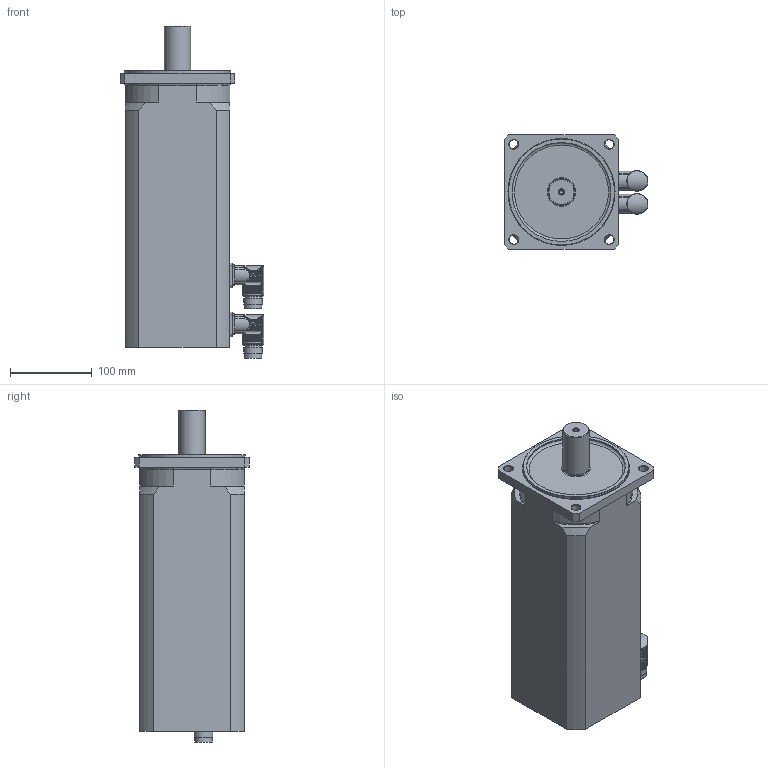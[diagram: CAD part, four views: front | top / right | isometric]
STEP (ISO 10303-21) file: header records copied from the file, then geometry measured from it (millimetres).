
FILE_DESCRIPTION(/* description */ (''),/* implementation_level */ '2;1');
FILE_NAME(/* name */ 'KSY 5616 D-MD-R4',/* time_stamp */ '2007-07-13T09:50:00+01:00',/* author */ (''),/* organization */ ('ESR Pollmeier GmbH'),/* preprocessor_version */ 'ST-DEVELOPER v8',/* originating_system */ 'UNIGRAPHICS SOLUTIONS - UNIGRAPHICS 18.0',/* authorisation */ '');
FILE_SCHEMA (('AUTOMOTIVE_DESIGN { 1 2 10303 214 0 1 1 1 }'));
Length unit declared in the file: millimetre
Products named in the file (3): Winkelflanschdose_0; Rotor_SY5_0; MR7458-Ux-Nxxx-G01-A0D-MS_0
Assembly tree (3 placements, depth 2):
  MR7458-Ux-Nxxx-G01-A0D-MS_0
    Rotor_SY5_0
    Winkelflanschdose_0  x2
Bounding box: 175.49 x 140 x 406.15 mm (x, y, z)
Volume: 5452307.6 mm3; surface area: 229311.6 mm2
Topology: 4 solids, 4 shells, 419 faces, 1162 edges, 769 vertices
Faces by surface type: cylinder 319, plane 74, cone 13, torus 13
Full cylindrical faces by diameter (mm): 4.351 x1, 5.5 x1, 11 x4, 16 x2, 21 x2, 21.5 x2, 23 x4, 31.52 x1, 32 x1, 35 x1, 121 x1, 130 x1
Entity records: 8421 total; most frequent: CARTESIAN_POINT 2117, ORIENTED_EDGE 1310, DIRECTION 1248, EDGE_CURVE 655, AXIS2_PLACEMENT_3D 498, VERTEX_POINT 449, EDGE_LOOP 305, ADVANCED_FACE 255
